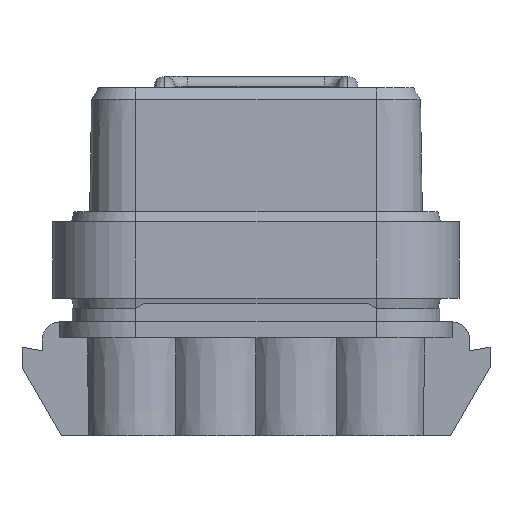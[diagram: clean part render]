
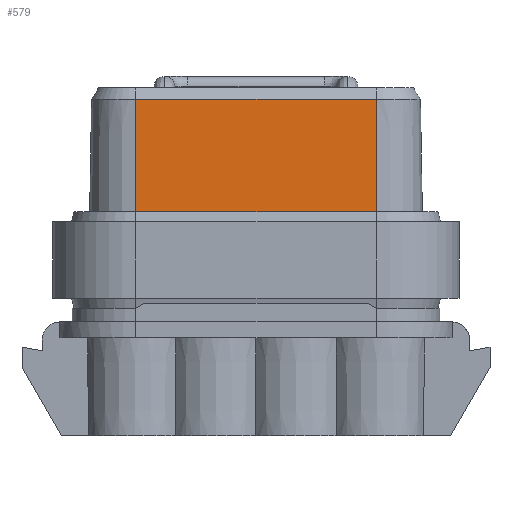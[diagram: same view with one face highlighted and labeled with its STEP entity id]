
A CAD part, front view. The second image highlights one B-rep face of the part: STEP entity #579.
In plain terms, the highlighted planar face has unit normal (0, -1, 0.017).
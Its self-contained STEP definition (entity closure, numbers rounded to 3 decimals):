
#268=B_SPLINE_CURVE_WITH_KNOTS('',3,(#5183,#5184,#5185,#5186),
 .UNSPECIFIED.,.F.,.F.,(4,4),(0.,1.),.UNSPECIFIED.);
#269=B_SPLINE_CURVE_WITH_KNOTS('',3,(#5187,#5188,#5189,#5190),
 .UNSPECIFIED.,.F.,.F.,(4,4),(0.,1.),.UNSPECIFIED.);
#420=FACE_OUTER_BOUND('',#851,.T.);
#579=ADVANCED_FACE('',(#420),#675,.F.);
#675=PLANE('',#3250);
#851=EDGE_LOOP('',(#1745,#1746,#1747,#1748));
#1745=ORIENTED_EDGE('',*,*,#2449,.T.);
#1746=ORIENTED_EDGE('',*,*,#2448,.T.);
#1747=ORIENTED_EDGE('',*,*,#2450,.F.);
#1748=ORIENTED_EDGE('',*,*,#2415,.T.);
#2007=VERTEX_POINT('',#5067);
#2013=VERTEX_POINT('',#5090);
#2026=VERTEX_POINT('',#5141);
#2032=VERTEX_POINT('',#5175);
#2415=EDGE_CURVE('',#2007,#2013,#2693,.T.);
#2448=EDGE_CURVE('',#2026,#2032,#2717,.T.);
#2449=EDGE_CURVE('',#2013,#2026,#268,.T.);
#2450=EDGE_CURVE('',#2007,#2032,#269,.T.);
#2693=LINE('',#5091,#2958);
#2717=LINE('',#5181,#2982);
#2958=VECTOR('',#3986,1.);
#2982=VECTOR('',#4054,1.);
#3250=AXIS2_PLACEMENT_3D('',#5191,#4057,#4058);
#3986=DIRECTION('',(1.,0.,0.));
#4054=DIRECTION('',(-1.,0.,0.));
#4057=DIRECTION('',(0.,1.,-0.017));
#4058=DIRECTION('',(0.,0.017,1.));
#5067=CARTESIAN_POINT('',(-8.999,-3.508,-8.45));
#5090=CARTESIAN_POINT('',(8.998,-3.508,-8.45));
#5091=CARTESIAN_POINT('',(-9.,-3.508,-8.45));
#5141=CARTESIAN_POINT('',(9.,-3.25,7.184));
#5175=CARTESIAN_POINT('',(-9.,-3.25,7.184));
#5181=CARTESIAN_POINT('',(-9.05,-3.25,7.184));
#5183=CARTESIAN_POINT('',(8.998,-3.508,-8.45));
#5184=CARTESIAN_POINT('',(8.998,-3.422,-3.239));
#5185=CARTESIAN_POINT('',(8.999,-3.336,1.973));
#5186=CARTESIAN_POINT('',(9.,-3.25,7.184));
#5187=CARTESIAN_POINT('',(-8.999,-3.508,-8.45));
#5188=CARTESIAN_POINT('',(-8.999,-3.422,-3.239));
#5189=CARTESIAN_POINT('',(-9.,-3.336,1.973));
#5190=CARTESIAN_POINT('',(-9.,-3.25,7.184));
#5191=CARTESIAN_POINT('',(0.,-3.525,-9.45));
